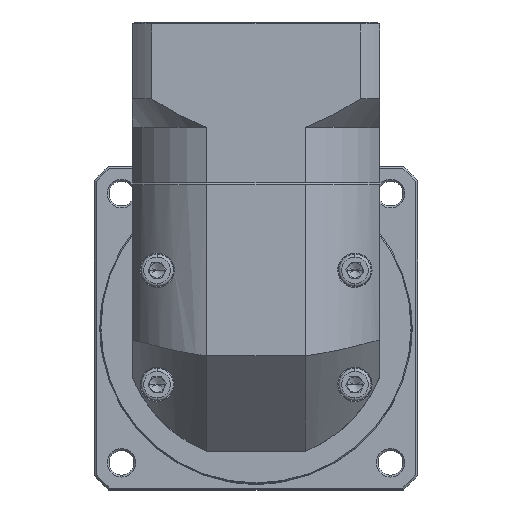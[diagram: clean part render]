
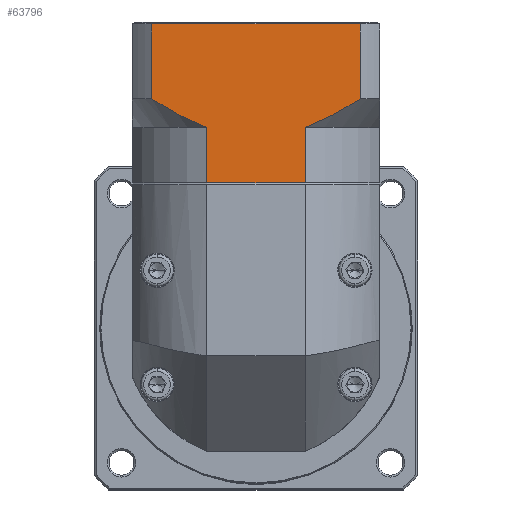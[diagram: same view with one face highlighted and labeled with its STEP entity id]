
A CAD part, top view. The second image highlights one B-rep face of the part: STEP entity #63796.
In plain terms, the highlighted planar face has unit normal (0, 0, 1).
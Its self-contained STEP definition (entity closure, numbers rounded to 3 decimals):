
#54 = VERTEX_POINT ( 'NONE', #98092 ) ;
#341 = LINE ( 'NONE', #21302, #94028 ) ;
#803 = DIRECTION ( 'NONE',  ( 0., -1., 0. ) ) ;
#1280 = CARTESIAN_POINT ( 'NONE',  ( -55.067, 79.673, 37.988 ) ) ;
#1387 = LINE ( 'NONE', #1280, #12900 ) ;
#1515 = LINE ( 'NONE', #57253, #39398 ) ;
#4739 = CARTESIAN_POINT ( 'NONE',  ( -40.671, 87.173, 37.988 ) ) ;
#10204 = ORIENTED_EDGE ( 'NONE', *, *, #76179, .T. ) ;
#11103 = VECTOR ( 'NONE', #803, 1000. ) ;
#11578 = EDGE_CURVE ( 'NONE', #33715, #20073, #84771, .T. ) ;
#12900 = VECTOR ( 'NONE', #73460, 1000. ) ;
#14034 = CARTESIAN_POINT ( 'NONE',  ( -89.633, 83.67, 37.988 ) ) ;
#15795 = CARTESIAN_POINT ( 'NONE',  ( -48.834, 82.419, 37.988 ) ) ;
#20073 = VERTEX_POINT ( 'NONE', #30285 ) ;
#21302 = CARTESIAN_POINT ( 'NONE',  ( -81.048, 79.673, 37.988 ) ) ;
#22010 = CARTESIAN_POINT ( 'NONE',  ( -100.557, 107.373, 37.988 ) ) ;
#22279 = ORIENTED_EDGE ( 'NONE', *, *, #63557, .F. ) ;
#25475 = CARTESIAN_POINT ( 'NONE',  ( -94.305, 86.439, 37.988 ) ) ;
#26013 = DIRECTION ( 'NONE',  ( 0., 1., 0. ) ) ;
#30285 = CARTESIAN_POINT ( 'NONE',  ( -55.067, 65.173, 37.988 ) ) ;
#31036 = ORIENTED_EDGE ( 'NONE', *, *, #76876, .F. ) ;
#31911 = DIRECTION ( 'NONE',  ( 0., 1., 0. ) ) ;
#33715 = VERTEX_POINT ( 'NONE', #102967 ) ;
#34237 = CARTESIAN_POINT ( 'NONE',  ( -90.819, 84.34, 37.988 ) ) ;
#34688 = CARTESIAN_POINT ( 'NONE',  ( -95.443, 87.173, 37.988 ) ) ;
#34911 = VERTEX_POINT ( 'NONE', #97458 ) ;
#35050 = VERTEX_POINT ( 'NONE', #87853 ) ;
#35154 = CARTESIAN_POINT ( 'NONE',  ( -86.038, 81.759, 37.988 ) ) ;
#36562 = B_SPLINE_CURVE_WITH_KNOTS ( 'NONE', 3,
 ( #34688, #25475, #119906, #34237, #14034, #35154, #56273, #108549 ),
 .UNSPECIFIED., .F., .F.,
 ( 4, 2, 2, 4 ),
 ( 0.058, 0.062, 0.066, 0.074 ),
 .UNSPECIFIED. ) ;
#39398 = VECTOR ( 'NONE', #26013, 1000. ) ;
#41068 = ORIENTED_EDGE ( 'NONE', *, *, #111849, .T. ) ;
#43211 = ORIENTED_EDGE ( 'NONE', *, *, #129712, .F. ) ;
#45632 = LINE ( 'NONE', #75238, #11103 ) ;
#48812 = CARTESIAN_POINT ( 'NONE',  ( -55.067, 79.673, 37.988 ) ) ;
#50623 = EDGE_LOOP ( 'NONE', ( #22279, #41068, #43211, #131607, #31036, #122217, #113242, #10204 ) ) ;
#52477 = EDGE_CURVE ( 'NONE', #54560, #20073, #1387, .T. ) ;
#54560 = VERTEX_POINT ( 'NONE', #48812 ) ;
#56273 = CARTESIAN_POINT ( 'NONE',  ( -83.586, 80.615, 37.988 ) ) ;
#57253 = CARTESIAN_POINT ( 'NONE',  ( -95.443, 79.673, 37.988 ) ) ;
#58002 = CARTESIAN_POINT ( 'NONE',  ( -52.524, 80.689, 37.988 ) ) ;
#62995 = DIRECTION ( 'NONE',  ( 0., 1., 0. ) ) ;
#63557 = EDGE_CURVE ( 'NONE', #54, #34911, #45632, .T. ) ;
#63796 = ADVANCED_FACE ( 'NONE', ( #96463 ), #84934, .F. ) ;
#68627 = CARTESIAN_POINT ( 'NONE',  ( -50.047, 81.814, 37.988 ) ) ;
#71391 = DIRECTION ( 'NONE',  ( 1., 0., 0. ) ) ;
#73460 = DIRECTION ( 'NONE',  ( 0., -1., 0. ) ) ;
#75238 = CARTESIAN_POINT ( 'NONE',  ( -40.671, 79.673, 37.988 ) ) ;
#76179 = EDGE_CURVE ( 'NONE', #54560, #34911, #123090, .T. ) ;
#76876 = EDGE_CURVE ( 'NONE', #33715, #35050, #341, .T. ) ;
#77325 = CARTESIAN_POINT ( 'NONE',  ( -55.067, 79.673, 37.988 ) ) ;
#78243 = CARTESIAN_POINT ( 'NONE',  ( -54.425, 79.911, 37.988 ) ) ;
#84771 = LINE ( 'NONE', #113458, #112612 ) ;
#84934 = PLANE ( 'NONE',  #102160 ) ;
#87853 = CARTESIAN_POINT ( 'NONE',  ( -81.048, 79.673, 37.988 ) ) ;
#88164 = CARTESIAN_POINT ( 'NONE',  ( -95.443, 87.173, 37.988 ) ) ;
#89677 = CARTESIAN_POINT ( 'NONE',  ( -45.253, 84.324, 37.988 ) ) ;
#94028 = VECTOR ( 'NONE', #31911, 1000. ) ;
#96463 = FACE_OUTER_BOUND ( 'NONE', #50623, .T. ) ;
#97458 = CARTESIAN_POINT ( 'NONE',  ( -40.671, 87.173, 37.988 ) ) ;
#98092 = CARTESIAN_POINT ( 'NONE',  ( -40.671, 106.873, 37.988 ) ) ;
#99536 = VERTEX_POINT ( 'NONE', #127502 ) ;
#100661 = CARTESIAN_POINT ( 'NONE',  ( -42.939, 85.711, 37.988 ) ) ;
#102160 = AXIS2_PLACEMENT_3D ( 'NONE', #22010, #105944, #62995 ) ;
#102967 = CARTESIAN_POINT ( 'NONE',  ( -81.048, 65.173, 37.988 ) ) ;
#105944 = DIRECTION ( 'NONE',  ( 0., 0., -1. ) ) ;
#106133 = LINE ( 'NONE', #108418, #124054 ) ;
#108418 = CARTESIAN_POINT ( 'NONE',  ( -100.557, 106.873, 37.988 ) ) ;
#108549 = CARTESIAN_POINT ( 'NONE',  ( -81.048, 79.673, 37.988 ) ) ;
#108870 = DIRECTION ( 'NONE',  ( -1., 0., 0. ) ) ;
#111849 = EDGE_CURVE ( 'NONE', #54, #99536, #106133, .T. ) ;
#112612 = VECTOR ( 'NONE', #71391, 1000. ) ;
#113242 = ORIENTED_EDGE ( 'NONE', *, *, #52477, .F. ) ;
#113458 = CARTESIAN_POINT ( 'NONE',  ( -100.557, 65.173, 37.988 ) ) ;
#114578 = EDGE_CURVE ( 'NONE', #119323, #35050, #36562, .T. ) ;
#119323 = VERTEX_POINT ( 'NONE', #88164 ) ;
#119906 = CARTESIAN_POINT ( 'NONE',  ( -93.154, 85.724, 37.988 ) ) ;
#122217 = ORIENTED_EDGE ( 'NONE', *, *, #11578, .T. ) ;
#123090 = B_SPLINE_CURVE_WITH_KNOTS ( 'NONE', 3,
 ( #77325, #78243, #131179, #58002, #130726, #68627, #15795, #89677, #100661, #4739 ),
 .UNSPECIFIED., .F., .F.,
 ( 4, 2, 2, 2, 4 ),
 ( 0.101, 0.103, 0.105, 0.109, 0.117 ),
 .UNSPECIFIED. ) ;
#124054 = VECTOR ( 'NONE', #108870, 1000. ) ;
#127502 = CARTESIAN_POINT ( 'NONE',  ( -95.443, 106.873, 37.988 ) ) ;
#129712 = EDGE_CURVE ( 'NONE', #119323, #99536, #1515, .T. ) ;
#130726 = CARTESIAN_POINT ( 'NONE',  ( -51.9, 80.963, 37.988 ) ) ;
#131179 = CARTESIAN_POINT ( 'NONE',  ( -53.786, 80.164, 37.988 ) ) ;
#131607 = ORIENTED_EDGE ( 'NONE', *, *, #114578, .T. ) ;
